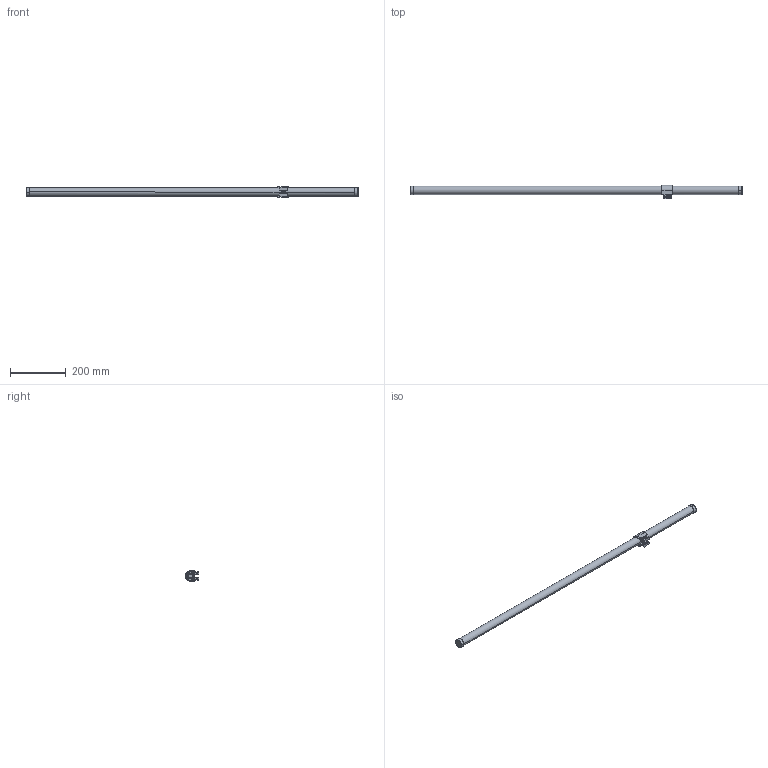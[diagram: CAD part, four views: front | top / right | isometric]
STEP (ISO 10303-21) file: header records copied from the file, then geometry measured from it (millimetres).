
FILE_DESCRIPTION (( 'STEP AP214' ), '1' );
FILE_NAME ('ACTUXXXXXXBI1XX.STEP', '2023-08-29T07:35:37', ( '' ), ( '' ), 'SwSTEP 2.0', 'SolidWorks 2023', '' );
FILE_SCHEMA (( 'AUTOMOTIVE_DESIGN' ));
Length unit declared in the file: millimetre
Products named in the file (5): ACTUXXXXXXBI1XX; WSCP2E0004-1400-02; WSCP2E0048-1400-00; WSVBPAR116225XX-00; WSCP2E0012-1400-01
Assembly tree (4 placements, depth 2):
  ACTUXXXXXXBI1XX
    WSVBPAR116225XX-00
    WSCP2E0004-1400-02
    WSCP2E0012-1400-01
    WSCP2E0048-1400-00
Bounding box: 1186 x 48.15 x 36.2 mm (x, y, z)
Volume: 309169.9 mm3; surface area: 217536.6 mm2
Topology: 4 solids, 4 shells, 1681 faces, 3890 edges, 2096 vertices
Faces by surface type: bspline 780, cylinder 688, plane 203, cone 10
Entity records: 58313 total; most frequent: CARTESIAN_POINT 24546, ORIENTED_EDGE 7536, DIRECTION 6652, EDGE_CURVE 3768, AXIS2_PLACEMENT_3D 2722, VERTEX_POINT 2096, CIRCLE 1814, EDGE_LOOP 1700
